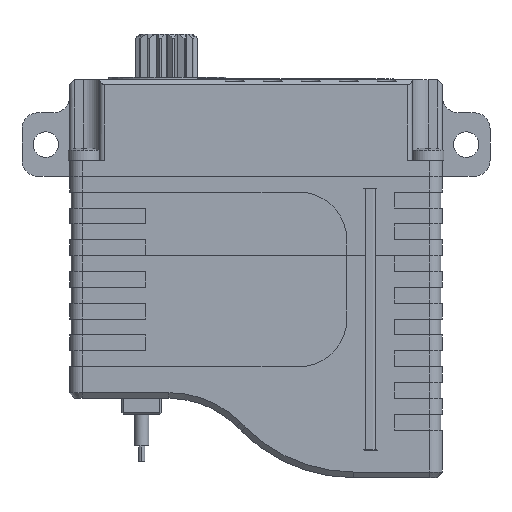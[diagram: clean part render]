
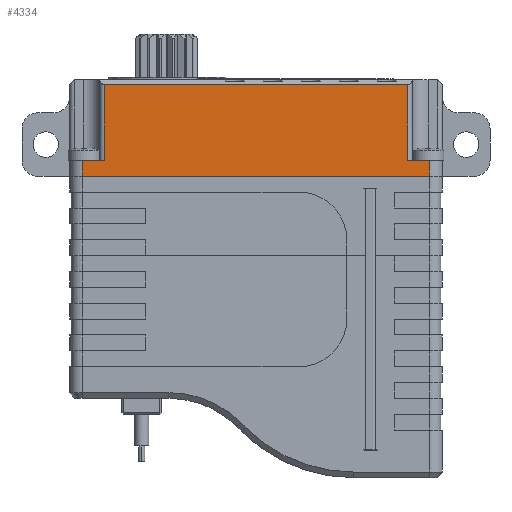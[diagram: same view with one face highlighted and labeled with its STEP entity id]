
A CAD part, front view. The second image highlights one B-rep face of the part: STEP entity #4334.
In plain terms, the highlighted planar face has unit normal (0, -1, 0).
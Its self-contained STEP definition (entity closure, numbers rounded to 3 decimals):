
#309 = VERTEX_POINT ( 'NONE', #13274 ) ;
#1026 = CARTESIAN_POINT ( 'NONE',  ( 5.757, -19.445, 19.389 ) ) ;
#1796 = VECTOR ( 'NONE', #27639, 1000. ) ;
#2062 = VERTEX_POINT ( 'NONE', #19966 ) ;
#2708 = CARTESIAN_POINT ( 'NONE',  ( -19.493, -19.445, 16.239 ) ) ;
#2922 = EDGE_CURVE ( 'NONE', #309, #7945, #7512, .T. ) ;
#3011 = VERTEX_POINT ( 'NONE', #11802 ) ;
#3046 = VECTOR ( 'NONE', #19128, 1000. ) ;
#4334 = ADVANCED_FACE ( 'NONE', ( #10734 ), #24203, .T. ) ;
#5721 = VERTEX_POINT ( 'NONE', #16163 ) ;
#6521 = DIRECTION ( 'NONE',  ( -1., 0., 0. ) ) ;
#7512 = LINE ( 'NONE', #25498, #1796 ) ;
#7853 = DIRECTION ( 'NONE',  ( 0., 0., 1. ) ) ;
#7945 = VERTEX_POINT ( 'NONE', #22944 ) ;
#8014 = EDGE_CURVE ( 'NONE', #20506, #2062, #19231, .T. ) ;
#8110 = VECTOR ( 'NONE', #26763, 1000. ) ;
#8911 = VECTOR ( 'NONE', #9726, 1000. ) ;
#9726 = DIRECTION ( 'NONE',  ( -1., 0., 0. ) ) ;
#10027 = VECTOR ( 'NONE', #14309, 1000. ) ;
#10091 = AXIS2_PLACEMENT_3D ( 'NONE', #2708, #22061, #13446 ) ;
#10574 = CARTESIAN_POINT ( 'NONE',  ( -19.493, -19.445, 19.389 ) ) ;
#10734 = FACE_OUTER_BOUND ( 'NONE', #22008, .T. ) ;
#11802 = CARTESIAN_POINT ( 'NONE',  ( 4.357, -19.445, 19.389 ) ) ;
#13043 = ORIENTED_EDGE ( 'NONE', *, *, #8014, .T. ) ;
#13274 = CARTESIAN_POINT ( 'NONE',  ( -14.743, -19.445, 24.172 ) ) ;
#13446 = DIRECTION ( 'NONE',  ( 0., 0., -1. ) ) ;
#13525 = ORIENTED_EDGE ( 'NONE', *, *, #2922, .T. ) ;
#14309 = DIRECTION ( 'NONE',  ( 1., 0., 0. ) ) ;
#14316 = EDGE_CURVE ( 'NONE', #3011, #21270, #19513, .T. ) ;
#14325 = ORIENTED_EDGE ( 'NONE', *, *, #14316, .T. ) ;
#14717 = LINE ( 'NONE', #18537, #10027 ) ;
#15986 = CARTESIAN_POINT ( 'NONE',  ( 4.357, -19.445, 16.239 ) ) ;
#16042 = VECTOR ( 'NONE', #7853, 1000. ) ;
#16163 = CARTESIAN_POINT ( 'NONE',  ( 5.757, -19.445, 18.389 ) ) ;
#16903 = ORIENTED_EDGE ( 'NONE', *, *, #17982, .T. ) ;
#17089 = ORIENTED_EDGE ( 'NONE', *, *, #23581, .T. ) ;
#17745 = EDGE_CURVE ( 'NONE', #7945, #20506, #25400, .T. ) ;
#17982 = EDGE_CURVE ( 'NONE', #21270, #309, #18648, .T. ) ;
#18537 = CARTESIAN_POINT ( 'NONE',  ( -19.493, -19.445, 18.389 ) ) ;
#18648 = LINE ( 'NONE', #24321, #8911 ) ;
#19128 = DIRECTION ( 'NONE',  ( -1., 0., 0. ) ) ;
#19231 = LINE ( 'NONE', #19609, #20253 ) ;
#19513 = LINE ( 'NONE', #15986, #8110 ) ;
#19609 = CARTESIAN_POINT ( 'NONE',  ( -16.143, -19.445, 18.389 ) ) ;
#19966 = CARTESIAN_POINT ( 'NONE',  ( -16.143, -19.445, 18.389 ) ) ;
#20253 = VECTOR ( 'NONE', #23989, 1000. ) ;
#20506 = VERTEX_POINT ( 'NONE', #27510 ) ;
#20689 = VERTEX_POINT ( 'NONE', #21693 ) ;
#21270 = VERTEX_POINT ( 'NONE', #26437 ) ;
#21371 = VECTOR ( 'NONE', #6521, 1000. ) ;
#21453 = ORIENTED_EDGE ( 'NONE', *, *, #23146, .T. ) ;
#21693 = CARTESIAN_POINT ( 'NONE',  ( 5.757, -19.445, 19.389 ) ) ;
#21741 = LINE ( 'NONE', #1026, #16042 ) ;
#22008 = EDGE_LOOP ( 'NONE', ( #17089, #21453, #22460, #14325, #16903, #13525, #25803, #13043 ) ) ;
#22061 = DIRECTION ( 'NONE',  ( 0., -1., 0. ) ) ;
#22460 = ORIENTED_EDGE ( 'NONE', *, *, #25574, .T. ) ;
#22944 = CARTESIAN_POINT ( 'NONE',  ( -14.743, -19.445, 19.389 ) ) ;
#23146 = EDGE_CURVE ( 'NONE', #5721, #20689, #21741, .T. ) ;
#23581 = EDGE_CURVE ( 'NONE', #2062, #5721, #14717, .T. ) ;
#23989 = DIRECTION ( 'NONE',  ( 0., 0., -1. ) ) ;
#24203 = PLANE ( 'NONE',  #10091 ) ;
#24212 = LINE ( 'NONE', #27476, #3046 ) ;
#24321 = CARTESIAN_POINT ( 'NONE',  ( -19.493, -19.445, 24.172 ) ) ;
#25400 = LINE ( 'NONE', #10574, #21371 ) ;
#25498 = CARTESIAN_POINT ( 'NONE',  ( -14.743, -19.445, 16.239 ) ) ;
#25574 = EDGE_CURVE ( 'NONE', #20689, #3011, #24212, .T. ) ;
#25803 = ORIENTED_EDGE ( 'NONE', *, *, #17745, .T. ) ;
#26437 = CARTESIAN_POINT ( 'NONE',  ( 4.357, -19.445, 24.172 ) ) ;
#26763 = DIRECTION ( 'NONE',  ( 0., 0., 1. ) ) ;
#27476 = CARTESIAN_POINT ( 'NONE',  ( -19.493, -19.445, 19.389 ) ) ;
#27510 = CARTESIAN_POINT ( 'NONE',  ( -16.143, -19.445, 19.389 ) ) ;
#27639 = DIRECTION ( 'NONE',  ( 0., 0., -1. ) ) ;
